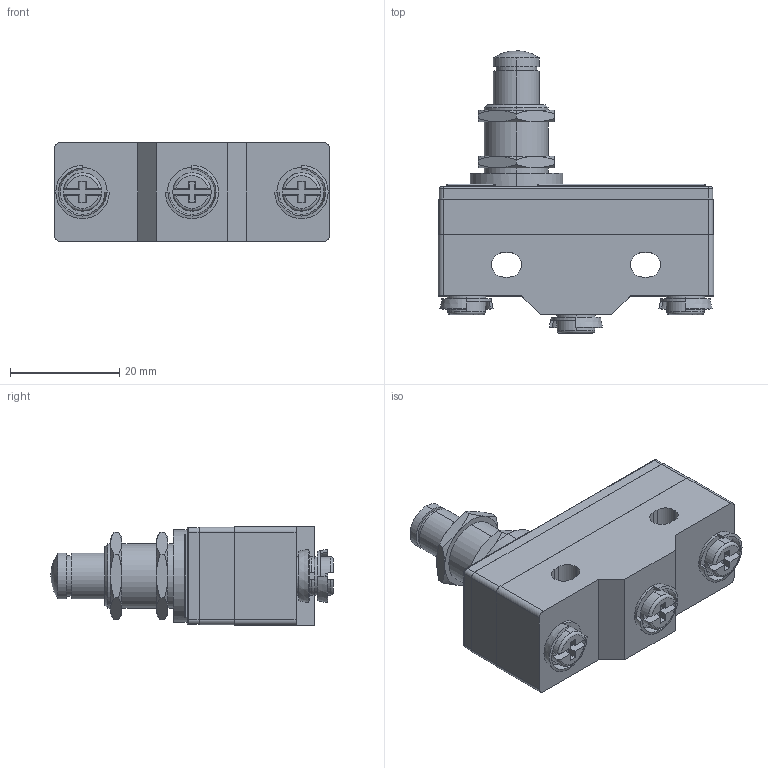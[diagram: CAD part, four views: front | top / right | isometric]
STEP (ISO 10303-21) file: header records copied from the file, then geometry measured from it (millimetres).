
FILE_DESCRIPTION (( 'STEP AP203' ), '1' );
FILE_NAME ('FM1307.STEP', '2018-03-23T13:25:11', ( '' ), ( '' ), 'SwSTEP 2.0', 'SolidWorks 2012', '' );
FILE_SCHEMA (( 'CONFIG_CONTROL_DESIGN' ));
Length unit declared in the file: millimetre
Products named in the file (1): FM1307
Bounding box: 50.3 x 51.6 x 18 mm (x, y, z)
Volume: 21398.3 mm3; surface area: 7143.1 mm2
Topology: 1 solids, 1 shells, 222 faces, 549 edges, 349 vertices
Faces by surface type: plane 104, cylinder 59, cone 45, torus 13, sphere 1
Entity records: 6851 total; most frequent: CARTESIAN_POINT 1524, DIRECTION 1104, ORIENTED_EDGE 1092, EDGE_CURVE 546, AXIS2_PLACEMENT_3D 415, VERTEX_POINT 347, LINE 274, VECTOR 274
